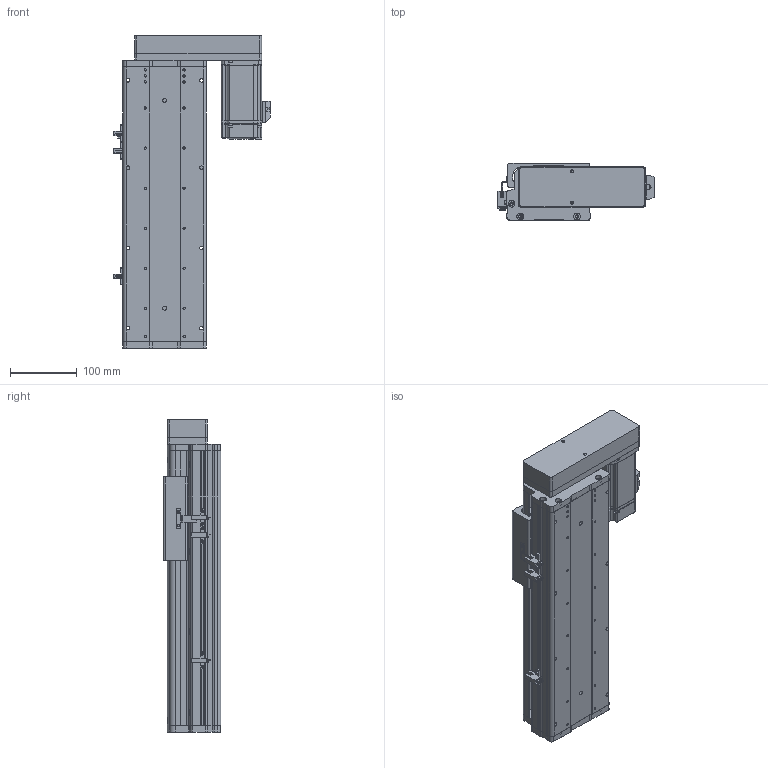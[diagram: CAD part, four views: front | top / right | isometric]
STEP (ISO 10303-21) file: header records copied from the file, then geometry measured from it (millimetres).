
FILE_DESCRIPTION (( 'STEP AP214' ), '1' );
FILE_NAME ('KSD125S-S200-MR-CM.STEP', '2017-10-21T08:50:32', ( '微软用户' ), ( '微软中国' ), 'SwSTEP 2.0', 'SolidWorks 2014', '' );
FILE_SCHEMA (( 'AUTOMOTIVE_DESIGN' ));
Length unit declared in the file: millimetre
Products named in the file (16): HTPA30S3M150_A_H6_a佪裝蚚; HTPA30S3M150_A_H6_a萇儂蚚; 125宽马达安装板连板左右折丝杆; 125悵誘欶酘衵殏; KSD125S-200俴最佪裝滅鳥裔; KSD125S-200俴最佪裝菁啣; MHMD042G1CA_2_03; 拸萇儂釱滅袉菜; 拸萇儂釱滅袉菜-1; 覜茼え68遵圉猾敕; U倰嫖萇假蚾璃; U倰嫖萇EEㄜSX672; ヶ傷啣-125遵耀郪; KSD125-賑雄釱1; 125-帣傷啣1; KSD125S-S200-MR-CM
Assembly tree (19 placements, depth 2):
  KSD125S-S200-MR-CM
    125-帣傷啣1
    KSD125-賑雄釱1
    ヶ傷啣-125遵耀郪
    U倰嫖萇EEㄜSX672  x3
    U倰嫖萇假蚾璃  x3
    覜茼え68遵圉猾敕
    拸萇儂釱滅袉菜-1
    拸萇儂釱滅袉菜
    MHMD042G1CA_2_03
    KSD125S-200俴最佪裝菁啣
    KSD125S-200俴最佪裝滅鳥裔
    125悵誘欶酘衵殏
    125宽马达安装板连板左右折丝杆
    HTPA30S3M150_A_H6_a萇儂蚚
    HTPA30S3M150_A_H6_a佪裝蚚
Bounding box: 234.2 x 86 x 467.5 mm (x, y, z)
Volume: 1841893.9 mm3; surface area: 663262 mm2
Topology: 18 solids, 21 shells, 2143 faces, 6207 edges, 4093 vertices
Faces by surface type: cylinder 1326, plane 676, cone 119, bspline 22
Entity records: 75161 total; most frequent: CARTESIAN_POINT 15337, DIRECTION 11745, ORIENTED_EDGE 10922, EDGE_CURVE 5539, AXIS2_PLACEMENT_3D 4527, VERTEX_POINT 3685, VECTOR 2691, LINE 2691
